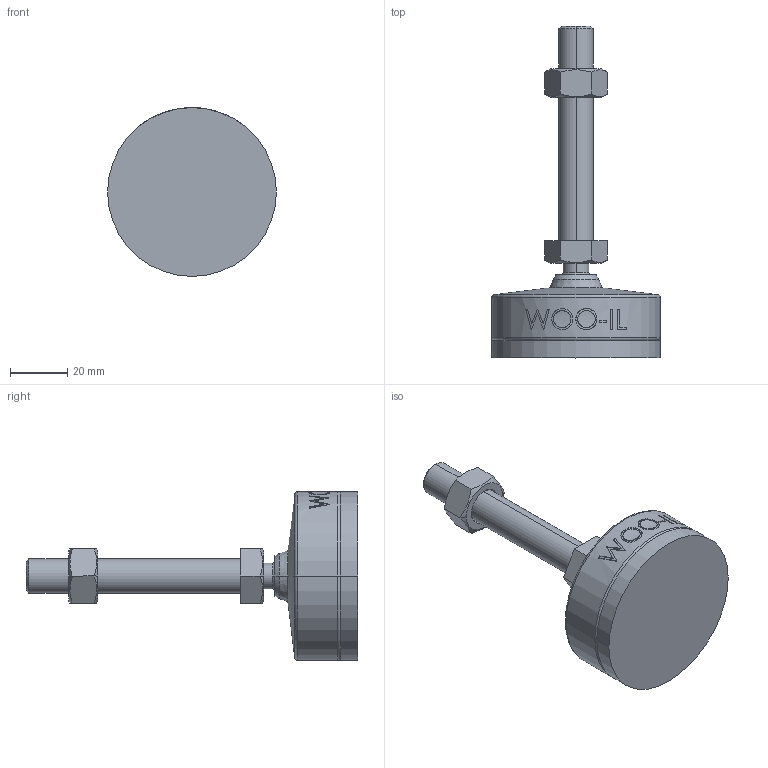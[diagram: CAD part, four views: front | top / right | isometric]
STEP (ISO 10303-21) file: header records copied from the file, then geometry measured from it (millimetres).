
FILE_DESCRIPTION (( 'STEP AP214' ), '1' );
FILE_NAME ('MFNR59-M12-75.step', '2021-02-22T09:06:33', ( '' ), ( '' ), 'SwSTEP 2.0', 'SolidWorks 2019', '' );
FILE_SCHEMA (( 'AUTOMOTIVE_DESIGN' ));
Length unit declared in the file: millimetre
Products named in the file (2): MFNR59-M12-75
Bounding box: 59 x 116 x 59 mm (x, y, z)
Volume: 77347.1 mm3; surface area: 15233.4 mm2
Topology: 2 solids, 2 shells, 105 faces, 245 edges, 156 vertices
Faces by surface type: plane 47, cone 18, cylinder 18, bspline 16, torus 4, sphere 2
Entity records: 4515 total; most frequent: CARTESIAN_POINT 2178, ORIENTED_EDGE 490, DIRECTION 437, EDGE_CURVE 245, AXIS2_PLACEMENT_3D 167, VERTEX_POINT 156, EDGE_LOOP 119, ADVANCED_FACE 105
